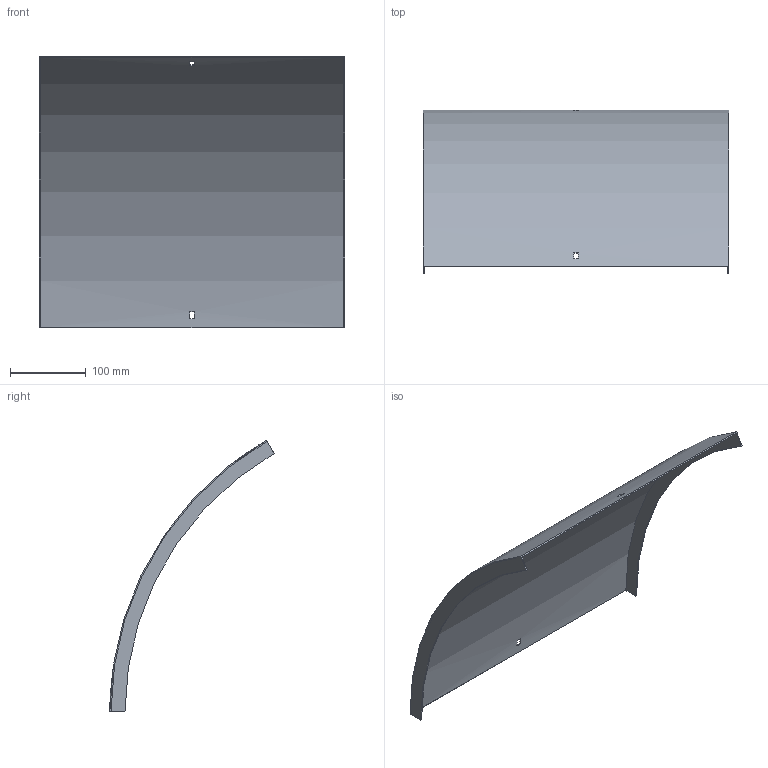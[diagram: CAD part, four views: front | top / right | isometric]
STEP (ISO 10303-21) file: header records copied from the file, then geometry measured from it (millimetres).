
FILE_DESCRIPTION (( 'STEP AP214' ), '1' );
FILE_NAME ('B2_41N3J400.step', '2025-02-21T10:42:15', ( '' ), ( '' ), 'SwSTEP 2.0', 'SolidWorks 2023', '' );
FILE_SCHEMA (( 'AUTOMOTIVE_DESIGN' ));
Length unit declared in the file: millimetre
Products named in the file (1): B2_41N3J400
Bounding box: 403 x 217 x 358.53 mm (x, y, z)
Volume: 284861.1 mm3; surface area: 382468 mm2
Topology: 1 solids, 1 shells, 18 faces, 48 edges, 32 vertices
Faces by surface type: plane 14, cylinder 4
Entity records: 599 total; most frequent: DIRECTION 102, CARTESIAN_POINT 99, ORIENTED_EDGE 96, EDGE_CURVE 48, AXIS2_PLACEMENT_3D 35, VECTOR 32, VERTEX_POINT 32, LINE 32
